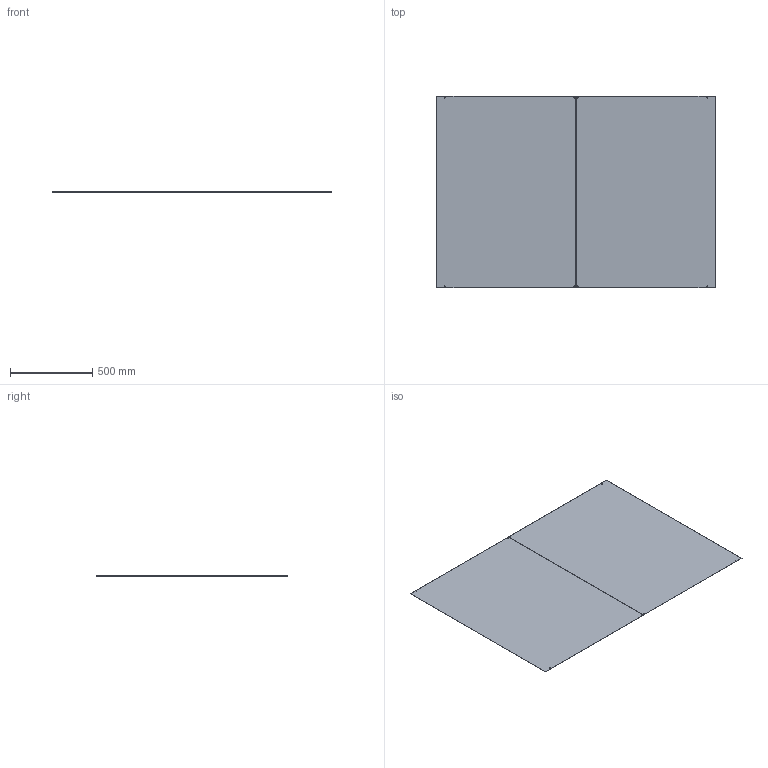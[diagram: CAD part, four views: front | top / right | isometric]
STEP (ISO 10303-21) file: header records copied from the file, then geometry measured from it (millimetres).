
FILE_DESCRIPTION(/* description */ (''),/* implementation_level */ '2;1');
FILE_NAME(/* name */ '14.frame-panels#14.1#PAAL-1166-847-2',/* time_stamp */ '2014-12-01T20:19:59+01:00',/* author */ (''),/* organization */ (''),/* preprocessor_version */ 'ST-DEVELOPER v14',/* originating_system */ '',/* authorisation */ '');
FILE_SCHEMA (('AUTOMOTIVE_DESIGN'));
Length unit declared in the file: millimetre
Products named in the file (1): Document
Bounding box: 1696 x 1166 x 1 mm (x, y, z)
Volume: 1975046.6 mm3; surface area: 3958271.6 mm2
Topology: 2 solids, 2 shells, 28 faces, 72 edges, 48 vertices
Faces by surface type: bspline 16, plane 12
Entity records: 1931 total; most frequent: CARTESIAN_POINT 974, ORIENTED_EDGE 144, PCURVE 144, DEFINITIONAL_REPRESENTATION 144, B_SPLINE_CURVE_WITH_KNOTS 136, SURFACE_CURVE 72, EDGE_CURVE 72, VERTEX_POINT 48
